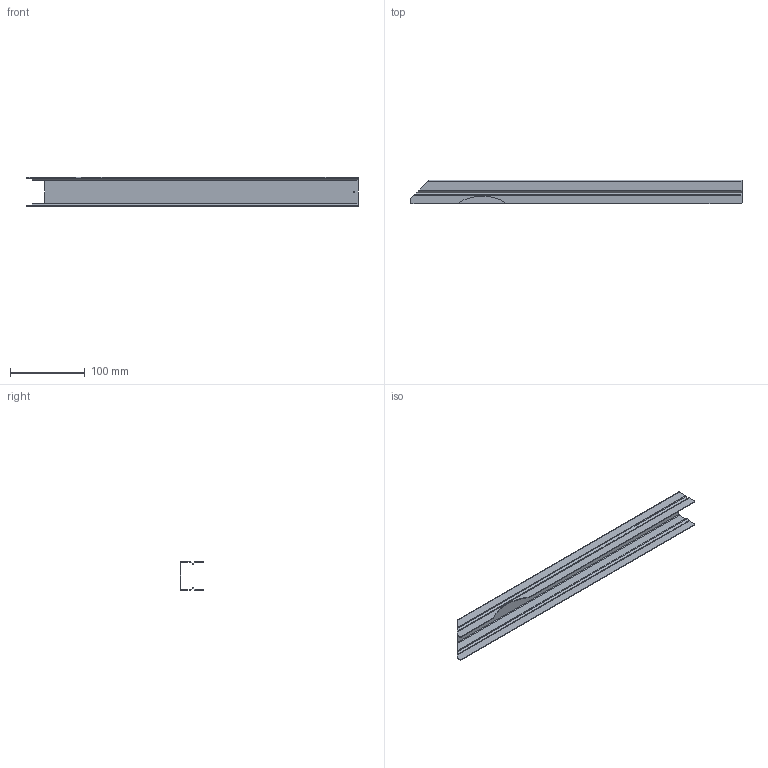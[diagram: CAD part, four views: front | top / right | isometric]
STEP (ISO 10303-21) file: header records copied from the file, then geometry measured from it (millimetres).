
FILE_DESCRIPTION (( 'STEP AP203' ), '1' );
FILE_NAME ('70-0269-00 REV 2, CABLE COVER, 13.5in FLEX, BLACK.STEP', '2018-02-20T22:38:48', ( '' ), ( '' ), 'SwSTEP 2.0', 'SolidWorks 2012', '' );
FILE_SCHEMA (( 'CONFIG_CONTROL_DESIGN' ));
Length unit declared in the file: inch
Products named in the file (1): 70-0269-00 REV 2, CABLE COVER, 13.5in FLEX, BLACK
Bounding box: 444.5 x 31.76 x 38.98 mm (x, y, z)
Volume: 40362.5 mm3; surface area: 89311.2 mm2
Topology: 1 solids, 1 shells, 88 faces, 194 edges, 108 vertices
Faces by surface type: plane 49, cylinder 27, bspline 12
Entity records: 2683 total; most frequent: CARTESIAN_POINT 799, ORIENTED_EDGE 388, DIRECTION 358, EDGE_CURVE 194, VECTOR 128, LINE 128, AXIS2_PLACEMENT_3D 115, VERTEX_POINT 108
